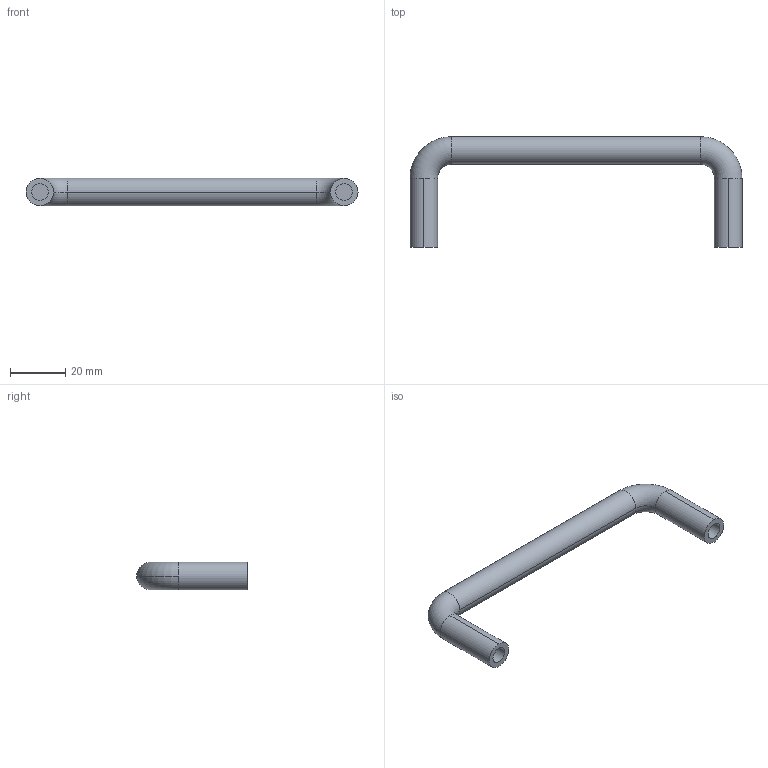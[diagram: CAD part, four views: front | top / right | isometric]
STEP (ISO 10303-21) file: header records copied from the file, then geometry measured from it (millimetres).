
FILE_DESCRIPTION (( 'STEP AP214' ), '1' );
FILE_NAME ('A84 KA-1251-8.STEP', '2012-02-22T01:59:06', ( '' ), ( '' ), 'SwSTEP 2.0', 'SolidWorks 2012', '' );
FILE_SCHEMA (( 'AUTOMOTIVE_DESIGN' ));
Length unit declared in the file: millimetre
Products named in the file (1): A84 KA-1251-8
Bounding box: 120 x 40 x 10 mm (x, y, z)
Volume: 13010.6 mm3; surface area: 5843.9 mm2
Topology: 1 solids, 1 shells, 18 faces, 38 edges, 24 vertices
Faces by surface type: cylinder 10, torus 4, plane 4
Entity records: 532 total; most frequent: DIRECTION 104, CARTESIAN_POINT 81, ORIENTED_EDGE 76, AXIS2_PLACEMENT_3D 47, EDGE_CURVE 38, CIRCLE 28, VERTEX_POINT 24, EDGE_LOOP 20
